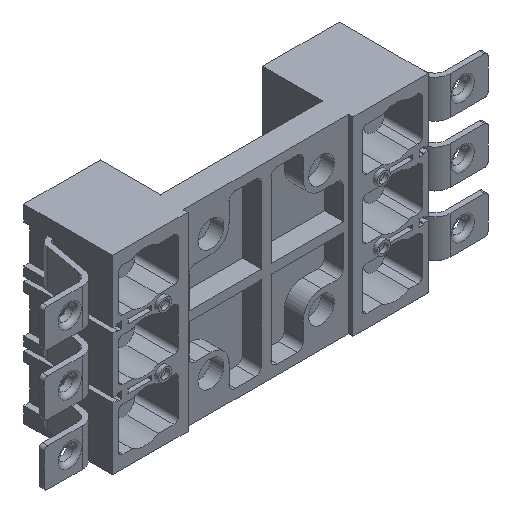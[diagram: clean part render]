
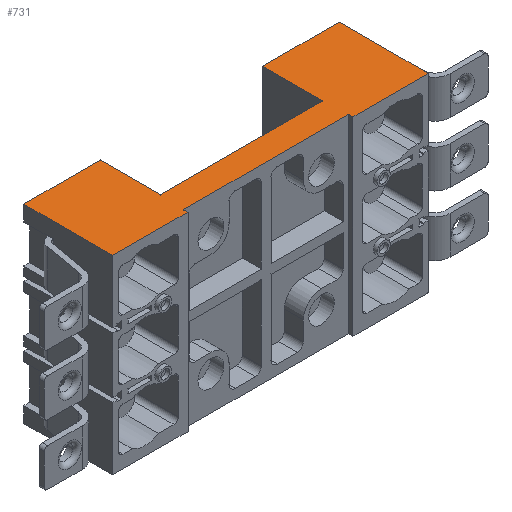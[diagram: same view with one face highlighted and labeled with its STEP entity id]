
A CAD part, isometric view. The second image highlights one B-rep face of the part: STEP entity #731.
In plain terms, the highlighted planar face has unit normal (0, 0, 1).
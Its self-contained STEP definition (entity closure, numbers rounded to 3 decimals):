
#731=ADVANCED_FACE('',(#1551),#1215,.F.);
#1215=PLANE('',#8808);
#1551=FACE_OUTER_BOUND('',#1961,.T.);
#1961=EDGE_LOOP('',(#2782,#2783,#2784,#2785,#2786,#2787,#2788,#2789,#2790,
#2791,#2792,#2793));
#2782=ORIENTED_EDGE('',*,*,#5753,.T.);
#2783=ORIENTED_EDGE('',*,*,#5774,.T.);
#2784=ORIENTED_EDGE('',*,*,#5951,.T.);
#2785=ORIENTED_EDGE('',*,*,#5952,.T.);
#2786=ORIENTED_EDGE('',*,*,#5953,.T.);
#2787=ORIENTED_EDGE('',*,*,#5954,.T.);
#2788=ORIENTED_EDGE('',*,*,#5955,.T.);
#2789=ORIENTED_EDGE('',*,*,#5956,.T.);
#2790=ORIENTED_EDGE('',*,*,#5957,.T.);
#2791=ORIENTED_EDGE('',*,*,#5958,.T.);
#2792=ORIENTED_EDGE('',*,*,#5959,.T.);
#2793=ORIENTED_EDGE('',*,*,#5868,.T.);
#4935=VERTEX_POINT('',#12028);
#4936=VERTEX_POINT('',#12030);
#4956=VERTEX_POINT('',#12071);
#5018=VERTEX_POINT('',#12237);
#5110=VERTEX_POINT('',#12425);
#5111=VERTEX_POINT('',#12427);
#5112=VERTEX_POINT('',#12429);
#5113=VERTEX_POINT('',#12431);
#5114=VERTEX_POINT('',#12433);
#5115=VERTEX_POINT('',#12435);
#5116=VERTEX_POINT('',#12437);
#5117=VERTEX_POINT('',#12439);
#5753=EDGE_CURVE('',#4936,#4935,#6951,.T.);
#5774=EDGE_CURVE('',#4935,#4956,#6968,.T.);
#5868=EDGE_CURVE('',#5018,#4936,#7054,.T.);
#5951=EDGE_CURVE('',#4956,#5110,#7105,.T.);
#5952=EDGE_CURVE('',#5110,#5111,#7106,.T.);
#5953=EDGE_CURVE('',#5111,#5112,#7107,.T.);
#5954=EDGE_CURVE('',#5112,#5113,#7108,.T.);
#5955=EDGE_CURVE('',#5113,#5114,#7109,.T.);
#5956=EDGE_CURVE('',#5114,#5115,#7110,.T.);
#5957=EDGE_CURVE('',#5115,#5116,#7111,.T.);
#5958=EDGE_CURVE('',#5116,#5117,#7112,.T.);
#5959=EDGE_CURVE('',#5117,#5018,#7113,.T.);
#6951=LINE('',#12029,#7843);
#6968=LINE('',#12072,#7860);
#7054=LINE('',#12256,#7946);
#7105=LINE('',#12424,#7997);
#7106=LINE('',#12426,#7998);
#7107=LINE('',#12428,#7999);
#7108=LINE('',#12430,#8000);
#7109=LINE('',#12432,#8001);
#7110=LINE('',#12434,#8002);
#7111=LINE('',#12436,#8003);
#7112=LINE('',#12438,#8004);
#7113=LINE('',#12440,#8005);
#7843=VECTOR('',#9544,1.);
#7860=VECTOR('',#9571,1.);
#7946=VECTOR('',#9711,1.);
#7997=VECTOR('',#9832,1.);
#7998=VECTOR('',#9833,1.);
#7999=VECTOR('',#9834,1.);
#8000=VECTOR('',#9835,1.);
#8001=VECTOR('',#9836,1.);
#8002=VECTOR('',#9837,1.);
#8003=VECTOR('',#9838,1.);
#8004=VECTOR('',#9839,1.);
#8005=VECTOR('',#9840,1.);
#8808=AXIS2_PLACEMENT_3D('',#12441,#9841,#9842);
#9544=DIRECTION('',(0.,1.,0.));
#9571=DIRECTION('',(-1.,0.,0.));
#9711=DIRECTION('',(1.,0.,0.));
#9832=DIRECTION('',(0.,-1.,0.));
#9833=DIRECTION('',(-1.,0.,0.));
#9834=DIRECTION('',(0.,1.,0.));
#9835=DIRECTION('',(-1.,0.,0.));
#9836=DIRECTION('',(0.,-1.,0.));
#9837=DIRECTION('',(1.,0.,0.));
#9838=DIRECTION('',(0.,1.,0.));
#9839=DIRECTION('',(1.,0.,0.));
#9840=DIRECTION('',(0.,-1.,0.));
#9841=DIRECTION('',(0.,0.,-1.));
#9842=DIRECTION('',(-1.,0.,0.));
#12028=CARTESIAN_POINT('',(91.3,51.5,55.));
#12029=CARTESIAN_POINT('',(91.3,68.,55.));
#12030=CARTESIAN_POINT('',(91.3,0.,55.));
#12071=CARTESIAN_POINT('',(47.,51.5,55.));
#12072=CARTESIAN_POINT('',(91.3,51.5,55.));
#12237=CARTESIAN_POINT('',(47.75,0.,55.));
#12256=CARTESIAN_POINT('',(91.3,0.,55.));
#12424=CARTESIAN_POINT('',(47.,68.,55.));
#12425=CARTESIAN_POINT('',(47.,16.7,55.));
#12426=CARTESIAN_POINT('',(91.3,16.7,55.));
#12427=CARTESIAN_POINT('',(-47.,16.7,55.));
#12428=CARTESIAN_POINT('',(-47.,68.,55.));
#12429=CARTESIAN_POINT('',(-47.,51.5,55.));
#12430=CARTESIAN_POINT('',(-91.3,51.5,55.));
#12431=CARTESIAN_POINT('',(-91.3,51.5,55.));
#12432=CARTESIAN_POINT('',(-91.3,68.,55.));
#12433=CARTESIAN_POINT('',(-91.3,0.,55.));
#12434=CARTESIAN_POINT('',(-91.3,0.,55.));
#12435=CARTESIAN_POINT('',(-47.75,0.,55.));
#12436=CARTESIAN_POINT('',(-47.75,68.,55.));
#12437=CARTESIAN_POINT('',(-47.75,2.5,55.));
#12438=CARTESIAN_POINT('',(91.3,2.5,55.));
#12439=CARTESIAN_POINT('',(47.75,2.5,55.));
#12440=CARTESIAN_POINT('',(47.75,68.,55.));
#12441=CARTESIAN_POINT('',(91.3,68.,55.));
